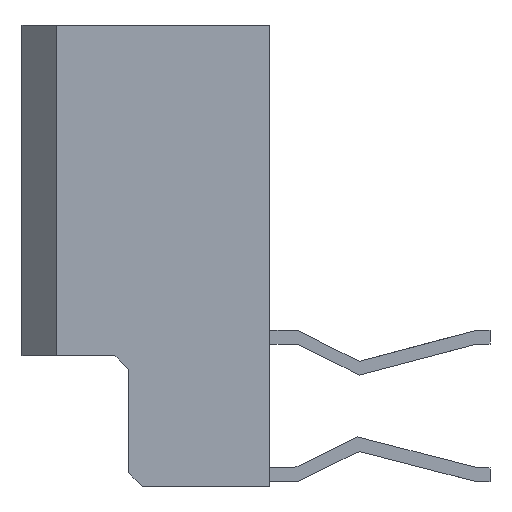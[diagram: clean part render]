
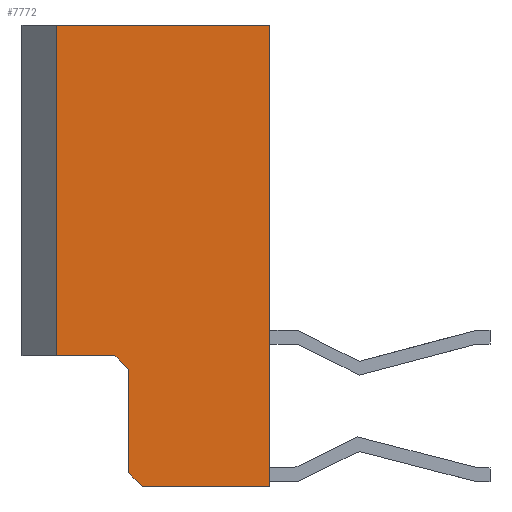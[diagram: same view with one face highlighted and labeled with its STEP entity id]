
A CAD part, left-side view. The second image highlights one B-rep face of the part: STEP entity #7772.
In plain terms, the highlighted planar face has unit normal (-1, 0, 0).
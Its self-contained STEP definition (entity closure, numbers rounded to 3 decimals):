
#5=DIRECTION('',(0.,-1.,0.));
#6=VECTOR('',#5,1.85);
#7=CARTESIAN_POINT('',(0.,1.85,0.));
#8=LINE('',#7,#6);
#630=DIRECTION('',(0.,-1.,0.));
#631=VECTOR('',#630,3.1);
#632=CARTESIAN_POINT('',(0.,3.1,6.7));
#633=LINE('',#632,#631);
#810=DIRECTION('',(0.,-1.,0.));
#811=VECTOR('',#810,0.85);
#812=CARTESIAN_POINT('',(0.,3.1,1.9));
#813=LINE('',#812,#811);
#814=DIRECTION('',(0.,0.,1.));
#815=VECTOR('',#814,4.8);
#816=CARTESIAN_POINT('',(0.,3.1,1.9));
#817=LINE('',#816,#815);
#818=DIRECTION('',(0.,-0.707,-0.707));
#819=VECTOR('',#818,0.283);
#820=CARTESIAN_POINT('',(0.,2.05,0.2));
#821=LINE('',#820,#819);
#822=DIRECTION('',(0.,0.,-1.));
#823=VECTOR('',#822,1.5);
#824=CARTESIAN_POINT('',(0.,2.05,1.7));
#825=LINE('',#824,#823);
#826=DIRECTION('',(0.,-0.707,-0.707));
#827=VECTOR('',#826,0.283);
#828=CARTESIAN_POINT('',(0.,2.25,1.9));
#829=LINE('',#828,#827);
#1413=DIRECTION('',(0.,0.,1.));
#1414=VECTOR('',#1413,6.7);
#1415=CARTESIAN_POINT('',(0.,0.,0.));
#1416=LINE('',#1415,#1414);
#4845=CARTESIAN_POINT('',(0.,0.,0.));
#4847=VERTEX_POINT('',#4845);
#4853=CARTESIAN_POINT('',(0.,3.1,6.7));
#4854=CARTESIAN_POINT('',(0.,0.,6.7));
#4855=VERTEX_POINT('',#4853);
#4856=VERTEX_POINT('',#4854);
#4871=CARTESIAN_POINT('',(0.,3.1,1.9));
#4872=CARTESIAN_POINT('',(0.,2.25,1.9));
#4873=VERTEX_POINT('',#4871);
#4874=VERTEX_POINT('',#4872);
#4875=CARTESIAN_POINT('',(0.,2.05,1.7));
#4876=CARTESIAN_POINT('',(0.,2.05,0.2));
#4877=VERTEX_POINT('',#4875);
#4878=VERTEX_POINT('',#4876);
#4879=CARTESIAN_POINT('',(0.,1.85,0.));
#4880=VERTEX_POINT('',#4879);
#7751=CARTESIAN_POINT('',(0.,3.1,0.));
#7752=DIRECTION('',(-1.,0.,0.));
#7753=DIRECTION('',(0.,-1.,0.));
#7754=AXIS2_PLACEMENT_3D('',#7751,#7752,#7753);
#7755=PLANE('',#7754);
#7757=ORIENTED_EDGE('',*,*,#7756,.F.);
#7759=ORIENTED_EDGE('',*,*,#7758,.T.);
#7760=ORIENTED_EDGE('',*,*,#7629,.T.);
#7762=ORIENTED_EDGE('',*,*,#7761,.F.);
#7763=ORIENTED_EDGE('',*,*,#6384,.F.);
#7765=ORIENTED_EDGE('',*,*,#7764,.F.);
#7767=ORIENTED_EDGE('',*,*,#7766,.F.);
#7769=ORIENTED_EDGE('',*,*,#7768,.F.);
#7770=EDGE_LOOP('',(#7757,#7759,#7760,#7762,#7763,#7765,#7767,#7769));
#7771=FACE_OUTER_BOUND('',#7770,.F.);
#7772=ADVANCED_FACE('',(#7771),#7755,.T.);
#6384=EDGE_CURVE('',#4880,#4847,#8,.T.);
#7629=EDGE_CURVE('',#4855,#4856,#633,.T.);
#7756=EDGE_CURVE('',#4873,#4874,#813,.T.);
#7758=EDGE_CURVE('',#4873,#4855,#817,.T.);
#7761=EDGE_CURVE('',#4847,#4856,#1416,.T.);
#7764=EDGE_CURVE('',#4878,#4880,#821,.T.);
#7766=EDGE_CURVE('',#4877,#4878,#825,.T.);
#7768=EDGE_CURVE('',#4874,#4877,#829,.T.);
